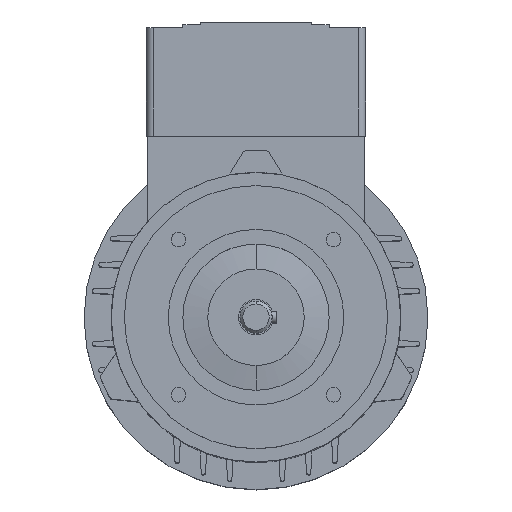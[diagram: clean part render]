
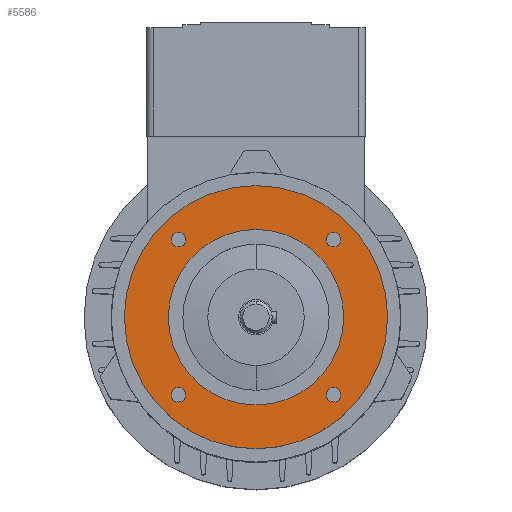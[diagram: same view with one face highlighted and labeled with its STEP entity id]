
A CAD part, top view. The second image highlights one B-rep face of the part: STEP entity #5586.
In plain terms, the highlighted planar face has unit normal (0, 0, 1).
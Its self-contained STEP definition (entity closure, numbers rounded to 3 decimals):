
#1641=CARTESIAN_POINT('',(-26.517,26.517,29.));
#1642=DIRECTION('',(0.,0.,-1.));
#1643=DIRECTION('',(-1.,0.,0.));
#1644=AXIS2_PLACEMENT_3D('',#1641,#1642,#1643);
#1646=CARTESIAN_POINT('',(-26.517,26.517,29.));
#1647=DIRECTION('',(0.,0.,-1.));
#1648=DIRECTION('',(1.,0.,0.));
#1649=AXIS2_PLACEMENT_3D('',#1646,#1647,#1648);
#1651=CARTESIAN_POINT('',(-26.517,-26.517,29.));
#1652=DIRECTION('',(0.,0.,-1.));
#1653=DIRECTION('',(-1.,0.,0.));
#1654=AXIS2_PLACEMENT_3D('',#1651,#1652,#1653);
#1656=CARTESIAN_POINT('',(-26.517,-26.517,29.));
#1657=DIRECTION('',(0.,0.,-1.));
#1658=DIRECTION('',(1.,0.,0.));
#1659=AXIS2_PLACEMENT_3D('',#1656,#1657,#1658);
#1661=CARTESIAN_POINT('',(26.517,-26.517,29.));
#1662=DIRECTION('',(0.,0.,-1.));
#1663=DIRECTION('',(-1.,0.,0.));
#1664=AXIS2_PLACEMENT_3D('',#1661,#1662,#1663);
#1666=CARTESIAN_POINT('',(26.517,-26.517,29.));
#1667=DIRECTION('',(0.,0.,-1.));
#1668=DIRECTION('',(1.,0.,0.));
#1669=AXIS2_PLACEMENT_3D('',#1666,#1667,#1668);
#1671=CARTESIAN_POINT('',(0.,0.,29.));
#1672=DIRECTION('',(0.,0.,1.));
#1673=DIRECTION('',(0.,1.,0.));
#1674=AXIS2_PLACEMENT_3D('',#1671,#1672,#1673);
#1676=CARTESIAN_POINT('',(0.,0.,29.));
#1677=DIRECTION('',(0.,0.,-1.));
#1678=DIRECTION('',(0.,1.,0.));
#1679=AXIS2_PLACEMENT_3D('',#1676,#1677,#1678);
#1681=CARTESIAN_POINT('',(26.517,26.517,29.));
#1682=DIRECTION('',(0.,0.,-1.));
#1683=DIRECTION('',(-1.,0.,0.));
#1684=AXIS2_PLACEMENT_3D('',#1681,#1682,#1683);
#1686=CARTESIAN_POINT('',(26.517,26.517,29.));
#1687=DIRECTION('',(0.,0.,-1.));
#1688=DIRECTION('',(1.,0.,0.));
#1689=AXIS2_PLACEMENT_3D('',#1686,#1687,#1688);
#1715=CARTESIAN_POINT('',(0.,0.,29.));
#1716=DIRECTION('',(0.,0.,-1.));
#1717=DIRECTION('',(0.,1.,0.));
#1718=AXIS2_PLACEMENT_3D('',#1715,#1716,#1717);
#1728=CARTESIAN_POINT('',(0.,0.,29.));
#1729=DIRECTION('',(0.,0.,1.));
#1730=DIRECTION('',(0.,1.,0.));
#1731=AXIS2_PLACEMENT_3D('',#1728,#1729,#1730);
#2650=CARTESIAN_POINT('',(0.,30.,29.));
#2652=VERTEX_POINT('',#2650);
#2654=CARTESIAN_POINT('',(0.,-30.,29.));
#2656=VERTEX_POINT('',#2654);
#2658=CARTESIAN_POINT('',(0.,45.,29.));
#2659=CARTESIAN_POINT('',(0.,-45.,29.));
#2660=VERTEX_POINT('',#2658);
#2661=VERTEX_POINT('',#2659);
#2666=CARTESIAN_POINT('',(24.017,26.517,29.));
#2667=CARTESIAN_POINT('',(29.017,26.517,29.));
#2668=VERTEX_POINT('',#2666);
#2669=VERTEX_POINT('',#2667);
#2670=CARTESIAN_POINT('',(24.017,-26.517,29.));
#2671=CARTESIAN_POINT('',(29.017,-26.517,29.));
#2672=VERTEX_POINT('',#2670);
#2673=VERTEX_POINT('',#2671);
#2674=CARTESIAN_POINT('',(-29.017,-26.517,29.));
#2675=CARTESIAN_POINT('',(-24.017,-26.517,29.));
#2676=VERTEX_POINT('',#2674);
#2677=VERTEX_POINT('',#2675);
#2678=CARTESIAN_POINT('',(-29.017,26.517,29.));
#2679=CARTESIAN_POINT('',(-24.017,26.517,29.));
#2680=VERTEX_POINT('',#2678);
#2681=VERTEX_POINT('',#2679);
#5547=CARTESIAN_POINT('',(0.,0.,29.));
#5548=DIRECTION('',(0.,0.,-1.));
#5549=DIRECTION('',(0.,-1.,0.));
#5550=AXIS2_PLACEMENT_3D('',#5547,#5548,#5549);
#5551=PLANE('',#5550);
#5552=ORIENTED_EDGE('',*,*,#5541,.F.);
#5553=ORIENTED_EDGE('',*,*,#5527,.T.);
#5554=EDGE_LOOP('',(#5552,#5553));
#5555=FACE_OUTER_BOUND('',#5554,.F.);
#5557=ORIENTED_EDGE('',*,*,#5556,.F.);
#5559=ORIENTED_EDGE('',*,*,#5558,.F.);
#5560=EDGE_LOOP('',(#5557,#5559));
#5561=FACE_BOUND('',#5560,.F.);
#5563=ORIENTED_EDGE('',*,*,#5562,.F.);
#5565=ORIENTED_EDGE('',*,*,#5564,.F.);
#5566=EDGE_LOOP('',(#5563,#5565));
#5567=FACE_BOUND('',#5566,.F.);
#5569=ORIENTED_EDGE('',*,*,#5568,.F.);
#5571=ORIENTED_EDGE('',*,*,#5570,.F.);
#5572=EDGE_LOOP('',(#5569,#5571));
#5573=FACE_BOUND('',#5572,.F.);
#5575=ORIENTED_EDGE('',*,*,#5574,.F.);
#5577=ORIENTED_EDGE('',*,*,#5576,.T.);
#5578=EDGE_LOOP('',(#5575,#5577));
#5579=FACE_BOUND('',#5578,.F.);
#5581=ORIENTED_EDGE('',*,*,#5580,.F.);
#5583=ORIENTED_EDGE('',*,*,#5582,.F.);
#5584=EDGE_LOOP('',(#5581,#5583));
#5585=FACE_BOUND('',#5584,.F.);
#5586=ADVANCED_FACE('',(#5555,#5561,#5567,#5573,#5579,#5585),#5551,.F.);
#1645=CIRCLE('',#1644,2.5);
#1650=CIRCLE('',#1649,2.5);
#1655=CIRCLE('',#1654,2.5);
#1660=CIRCLE('',#1659,2.5);
#1665=CIRCLE('',#1664,2.5);
#1670=CIRCLE('',#1669,2.5);
#1675=CIRCLE('',#1674,45.);
#1680=CIRCLE('',#1679,45.);
#1685=CIRCLE('',#1684,2.5);
#1690=CIRCLE('',#1689,2.5);
#1719=CIRCLE('',#1718,30.);
#1732=CIRCLE('',#1731,30.);
#5527=EDGE_CURVE('',#2660,#2661,#1680,.T.);
#5541=EDGE_CURVE('',#2660,#2661,#1675,.T.);
#5556=EDGE_CURVE('',#2680,#2681,#1645,.T.);
#5558=EDGE_CURVE('',#2681,#2680,#1650,.T.);
#5562=EDGE_CURVE('',#2676,#2677,#1655,.T.);
#5564=EDGE_CURVE('',#2677,#2676,#1660,.T.);
#5568=EDGE_CURVE('',#2672,#2673,#1665,.T.);
#5570=EDGE_CURVE('',#2673,#2672,#1670,.T.);
#5574=EDGE_CURVE('',#2652,#2656,#1719,.T.);
#5576=EDGE_CURVE('',#2652,#2656,#1732,.T.);
#5580=EDGE_CURVE('',#2668,#2669,#1685,.T.);
#5582=EDGE_CURVE('',#2669,#2668,#1690,.T.);
